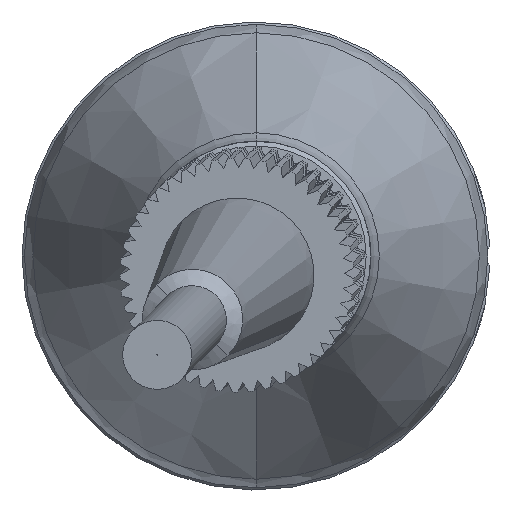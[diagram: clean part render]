
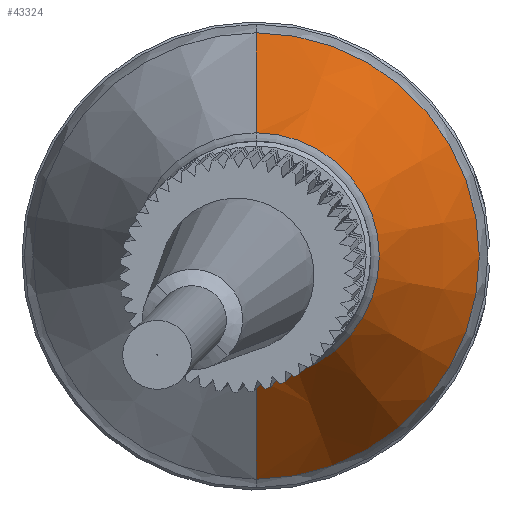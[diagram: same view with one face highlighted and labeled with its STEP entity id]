
A CAD part, left-side view. The second image highlights one B-rep face of the part: STEP entity #43324.
In plain terms, the highlighted conical face has half-angle 22 degrees and reference radius 5.264 mm.
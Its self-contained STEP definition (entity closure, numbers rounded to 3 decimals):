
#205 = ORIENTED_EDGE ( 'NONE', *, *, #13163, .T. ) ;
#2820 = AXIS2_PLACEMENT_3D ( 'NONE', #27288, #40711, #38541 ) ;
#6017 = CARTESIAN_POINT ( 'NONE',  ( 12.598, 0., -5.264 ) ) ;
#6429 = ORIENTED_EDGE ( 'NONE', *, *, #42115, .F. ) ;
#7894 = EDGE_CURVE ( 'NONE', #33710, #19527, #21191, .T. ) ;
#9409 = FACE_OUTER_BOUND ( 'NONE', #11214, .T. ) ;
#11214 = EDGE_LOOP ( 'NONE', ( #205, #40182, #43549, #6429 ) ) ;
#12611 = DIRECTION ( 'NONE',  ( 0.927, 0., 0.375 ) ) ;
#13163 = EDGE_CURVE ( 'NONE', #29888, #19725, #42661, .T. ) ;
#13375 = EDGE_CURVE ( 'NONE', #19725, #19527, #35242, .T. ) ;
#14166 = CARTESIAN_POINT ( 'NONE',  ( 23.172, 0., 0. ) ) ;
#14849 = DIRECTION ( 'NONE',  ( 0., 0., 1. ) ) ;
#14856 = AXIS2_PLACEMENT_3D ( 'NONE', #42051, #37925, #27280 ) ;
#19527 = VERTEX_POINT ( 'NONE', #33074 ) ;
#19725 = VERTEX_POINT ( 'NONE', #6017 ) ;
#20438 = AXIS2_PLACEMENT_3D ( 'NONE', #14166, #21582, #14849 ) ;
#20777 = CONICAL_SURFACE ( 'NONE', #14856, 5.264, 0.384 ) ;
#21191 = CIRCLE ( 'NONE', #20438, 9.536 ) ;
#21337 = DIRECTION ( 'NONE',  ( 0.927, 0., -0.375 ) ) ;
#21581 = CARTESIAN_POINT ( 'NONE',  ( 12.598, 0., -5.264 ) ) ;
#21582 = DIRECTION ( 'NONE',  ( 1., 0., 0. ) ) ;
#23509 = LINE ( 'NONE', #36940, #45022 ) ;
#25485 = CARTESIAN_POINT ( 'NONE',  ( 23.172, 0., 9.536 ) ) ;
#27280 = DIRECTION ( 'NONE',  ( 0., 0., 1. ) ) ;
#27288 = CARTESIAN_POINT ( 'NONE',  ( 12.598, 0., 0. ) ) ;
#29888 = VERTEX_POINT ( 'NONE', #39256 ) ;
#33074 = CARTESIAN_POINT ( 'NONE',  ( 23.172, 0., -9.536 ) ) ;
#33710 = VERTEX_POINT ( 'NONE', #25485 ) ;
#35242 = LINE ( 'NONE', #21581, #41175 ) ;
#36940 = CARTESIAN_POINT ( 'NONE',  ( 12.598, 0., 5.264 ) ) ;
#37925 = DIRECTION ( 'NONE',  ( 1., 0., 0. ) ) ;
#38541 = DIRECTION ( 'NONE',  ( 0., 0., 1. ) ) ;
#39256 = CARTESIAN_POINT ( 'NONE',  ( 12.598, 0., 5.264 ) ) ;
#40182 = ORIENTED_EDGE ( 'NONE', *, *, #13375, .T. ) ;
#40711 = DIRECTION ( 'NONE',  ( 1., 0., 0. ) ) ;
#41175 = VECTOR ( 'NONE', #21337, 1000. ) ;
#42051 = CARTESIAN_POINT ( 'NONE',  ( 12.598, 0., 0. ) ) ;
#42115 = EDGE_CURVE ( 'NONE', #29888, #33710, #23509, .T. ) ;
#42661 = CIRCLE ( 'NONE', #2820, 5.264 ) ;
#43324 = ADVANCED_FACE ( 'NONE', ( #9409 ), #20777, .T. ) ;
#43549 = ORIENTED_EDGE ( 'NONE', *, *, #7894, .F. ) ;
#45022 = VECTOR ( 'NONE', #12611, 1000. ) ;
